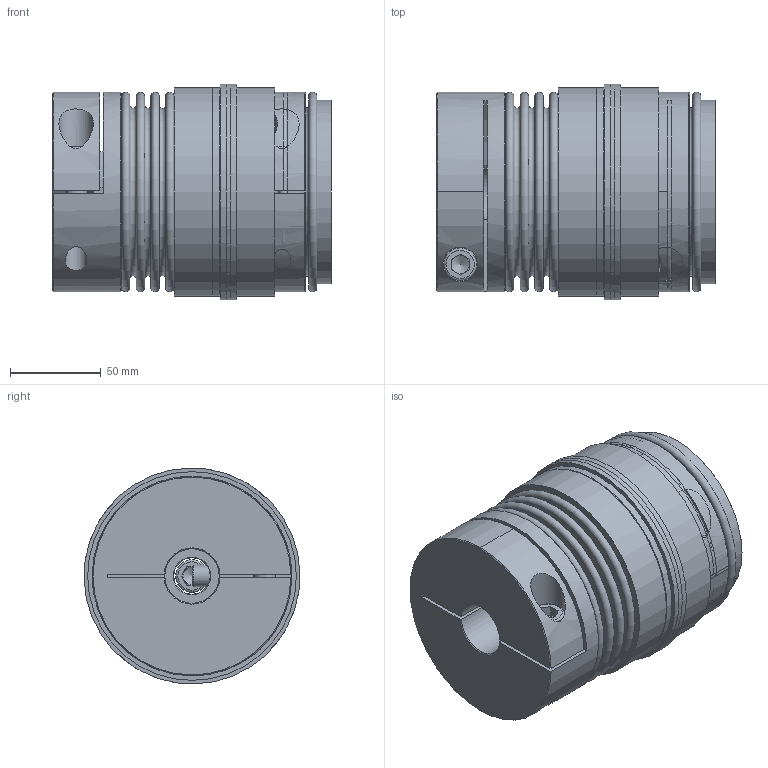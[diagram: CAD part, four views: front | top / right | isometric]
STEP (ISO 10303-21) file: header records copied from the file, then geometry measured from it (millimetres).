
FILE_DESCRIPTION( ( 'Unknown' ), '1' );
FILE_NAME( 'C:/Dokumente und Einstellungen/SKarpstein/Desktop/Korrigierte 3D Modelle/KBK-BKK-300-140.stp', 'Unknown', ( 'Unknown' ), ( 'Unknown' ), 'XStep 1.0', 'Unknown', ' ' );
FILE_SCHEMA( ( 'automotive_design' ) );
Length unit declared in the file: millimetre
Products named in the file (11): Assem1; Assem2; Zylinderschraube DIN 912_2_0; Stellring 300; Druckring 300; Kupplung L-K-300 Grundkörper; Klemmnabe 300; Flansch BK300; KN300_Standard_2; Socket Head Cap Screw_DIN_DIN 912 M12 x 40 --- 40N_0; BK300_Standard_0
Bounding box: 153.71 x 119 x 119 mm (x, y, z)
Volume: 1831543.4 mm3; surface area: 475839 mm2
Topology: 19 solids, 19 shells, 327 faces, 678 edges, 445 vertices
Faces by surface type: plane 158, cylinder 90, cone 43, torus 36
Full cylindrical faces by diameter (mm): 3.242 x6, 5.2 x6, 10.106 x2, 12 x7, 12.5 x4, 18 x5, 19 x4, 20 x2, 30 x2, 52 x2, 55 x4, 60 x2, 70 x2, 76 x4, 83.5 x2, 88 x2, 90 x2, 98 x2, 98.5 x2, 99.8 x4, 101 x4, 110 x2, 115 x4, 119 x2
Entity records: 4647 total; most frequent: CARTESIAN_POINT 1308, DIRECTION 667, ORIENTED_EDGE 450, AXIS2_PLACEMENT_3D 301, EDGE_LOOP 280, EDGE_CURVE 225, FACE_OUTER_BOUND 211, VERTEX_POINT 188
